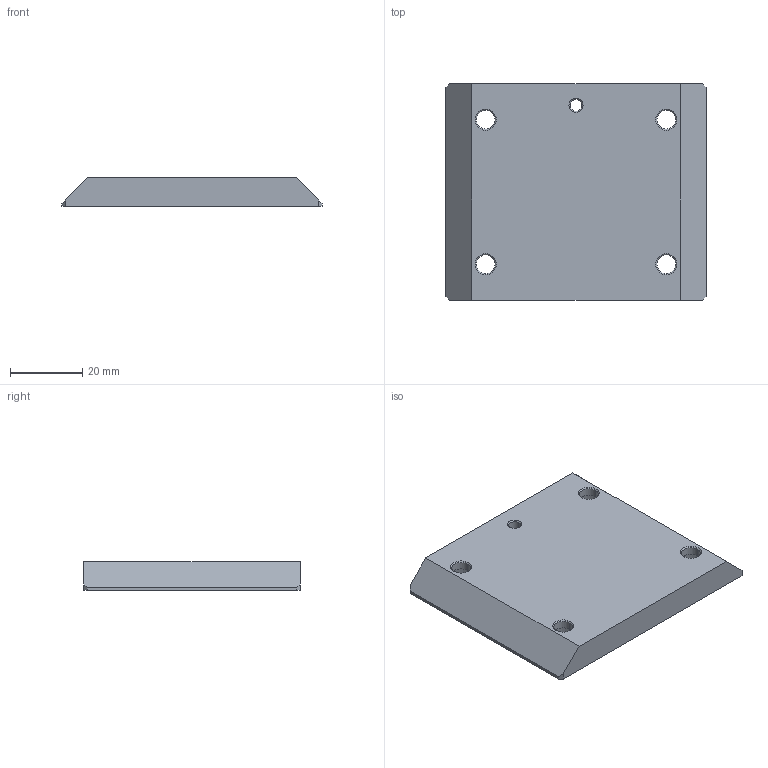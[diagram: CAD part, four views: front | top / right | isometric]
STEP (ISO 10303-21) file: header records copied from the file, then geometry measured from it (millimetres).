
FILE_DESCRIPTION (( 'STEP AP214' ), '1' );
FILE_NAME ('QCS-G60.STEP', '2023-03-15T02:51:21', ( 'Windows User' ), ( 'P R C' ), 'SwSTEP 2.0', 'SolidWorks 2019', '' );
FILE_SCHEMA (( 'AUTOMOTIVE_DESIGN' ));
Length unit declared in the file: millimetre
Products named in the file (1): QCS-G60
Bounding box: 72 x 60 x 8 mm (x, y, z)
Volume: 29428.9 mm3; surface area: 10850.7 mm2
Topology: 1 solids, 1 shells, 54 faces, 124 edges, 76 vertices
Faces by surface type: cone 20, cylinder 18, plane 16
Entity records: 1578 total; most frequent: DIRECTION 290, CARTESIAN_POINT 255, ORIENTED_EDGE 248, EDGE_CURVE 124, AXIS2_PLACEMENT_3D 111, VERTEX_POINT 76, LINE 68, VECTOR 68
